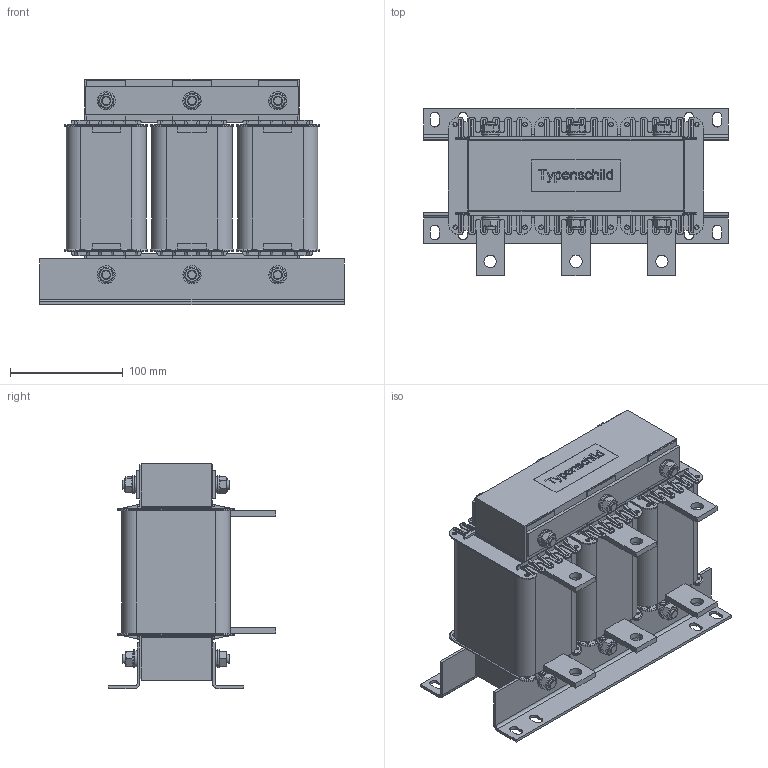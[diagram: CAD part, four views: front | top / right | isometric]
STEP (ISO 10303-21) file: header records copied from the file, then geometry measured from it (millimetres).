
FILE_DESCRIPTION((''),'2;1');
FILE_NAME('C:\Users\fp1\CAD-Daten\DDK\DDK1,6 115.stp','2014-06-26T10:58:36',('FP1'),(''),'Autodesk Inventor 2013','Autodesk Inventor 2013','');
FILE_SCHEMA(('AUTOMOTIVE_DESIGN { 1 0 10303 214 1 1 1 1 }'));
Length unit declared in the file: millimetre
Products named in the file (1): Bauteil18
Bounding box: 270 x 148.1 x 199.62 mm (x, y, z)
Volume: 3323998.7 mm3; surface area: 439766.6 mm2
Topology: 1 solids, 1 shells, 3229 faces, 8880 edges, 5712 vertices
Faces by surface type: plane 2212, cylinder 680, torus 156, bspline 140, cone 41
Full cylindrical faces by diameter (mm): 4 x24, 8 x12, 11 x6, 14 x12, 16 x12
Entity records: 104958 total; most frequent: CARTESIAN_POINT 23403, ORIENTED_EDGE 17542, DIRECTION 16141, EDGE_CURVE 8771, VECTOR 6481, LINE 6481, VERTEX_POINT 5680, AXIS2_PLACEMENT_3D 4830
